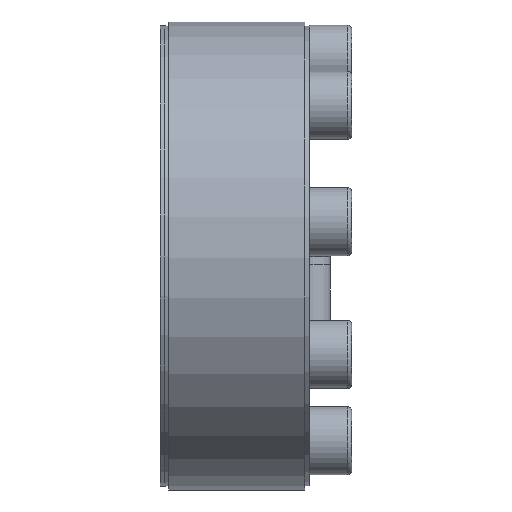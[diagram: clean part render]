
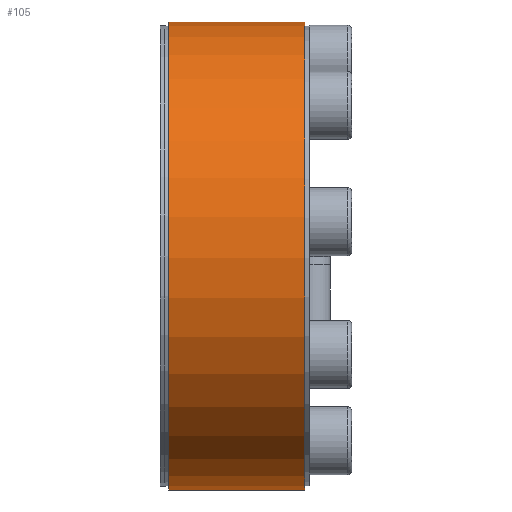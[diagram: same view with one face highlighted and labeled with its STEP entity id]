
A CAD part, left-side view. The second image highlights one B-rep face of the part: STEP entity #105.
In plain terms, the highlighted cylindrical face has radius 55 mm (diameter 110 mm), a partial arc.
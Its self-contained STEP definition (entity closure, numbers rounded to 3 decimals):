
#105 = ADVANCED_FACE( '', ( #229 ), #230, .T. );
#229 = FACE_OUTER_BOUND( '', #379, .T. );
#230 = CYLINDRICAL_SURFACE( '', #380, 55. );
#379 = EDGE_LOOP( '', ( #634, #635, #636, #637 ) );
#380 = AXIS2_PLACEMENT_3D( '', #638, #639, #640 );
#634 = ORIENTED_EDGE( '', *, *, #809, .F. );
#635 = ORIENTED_EDGE( '', *, *, #831, .T. );
#636 = ORIENTED_EDGE( '', *, *, #855, .T. );
#637 = ORIENTED_EDGE( '', *, *, #839, .F. );
#638 = CARTESIAN_POINT( '', ( 0., -60., 0. ) );
#639 = DIRECTION( '', ( 0., 1., 0. ) );
#640 = DIRECTION( '', ( 0., 0., -1. ) );
#809 = EDGE_CURVE( '', #974, #975, #976, .T. );
#831 = EDGE_CURVE( '', #974, #1015, #1016, .T. );
#839 = EDGE_CURVE( '', #975, #1027, #1028, .T. );
#855 = EDGE_CURVE( '', #1015, #1027, #1053, .T. );
#974 = VERTEX_POINT( '', #1266 );
#975 = VERTEX_POINT( '', #1267 );
#976 = LINE( '', #1268, #1269 );
#1015 = VERTEX_POINT( '', #1321 );
#1016 = CIRCLE( '', #1322, 55. );
#1027 = VERTEX_POINT( '', #1336 );
#1028 = CIRCLE( '', #1337, 55. );
#1053 = LINE( '', #1374, #1375 );
#1266 = CARTESIAN_POINT( '', ( 17.868, 33., 52.017 ) );
#1267 = CARTESIAN_POINT( '', ( 17.868, 1., 52.017 ) );
#1268 = CARTESIAN_POINT( '', ( 17.868, -60., 52.017 ) );
#1269 = VECTOR( '', #1477, 1000. );
#1321 = CARTESIAN_POINT( '', ( 19.748, 33., 51.333 ) );
#1322 = AXIS2_PLACEMENT_3D( '', #1512, #1513, #1514 );
#1336 = CARTESIAN_POINT( '', ( 19.748, 1., 51.333 ) );
#1337 = AXIS2_PLACEMENT_3D( '', #1524, #1525, #1526 );
#1374 = CARTESIAN_POINT( '', ( 19.748, -60., 51.333 ) );
#1375 = VECTOR( '', #1542, 1000. );
#1477 = DIRECTION( '', ( 0., -1., 0. ) );
#1512 = CARTESIAN_POINT( '', ( 0., 33., 0. ) );
#1513 = DIRECTION( '', ( 0., -1., 0. ) );
#1514 = DIRECTION( '', ( 0., 0., -1. ) );
#1524 = CARTESIAN_POINT( '', ( 0., 1., 0. ) );
#1525 = DIRECTION( '', ( 0., -1., 0. ) );
#1526 = DIRECTION( '', ( 0., 0., -1. ) );
#1542 = DIRECTION( '', ( 0., -1., 0. ) );
